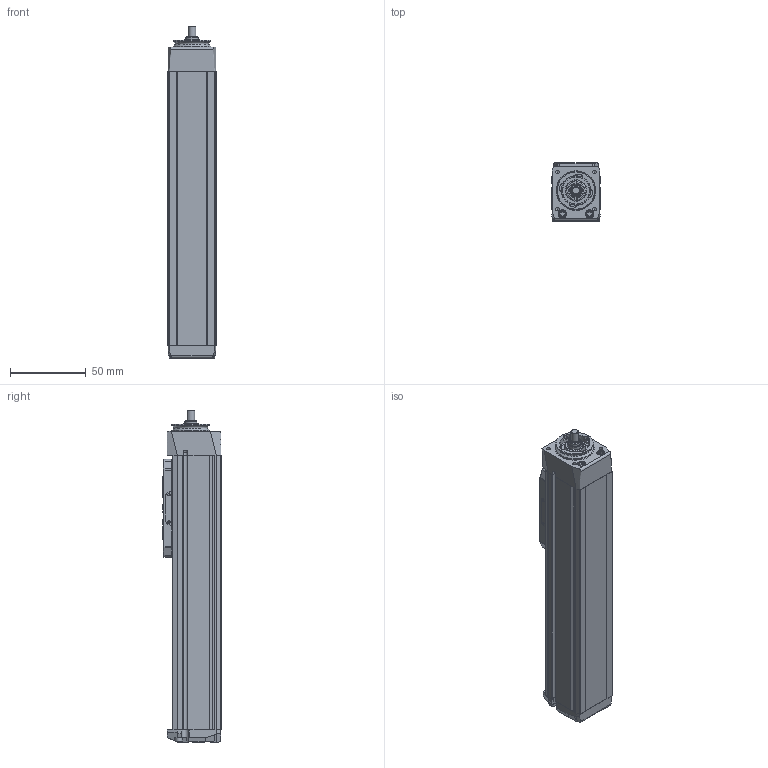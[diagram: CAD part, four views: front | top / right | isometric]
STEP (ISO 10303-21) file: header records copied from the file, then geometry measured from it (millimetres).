
FILE_DESCRIPTION(/* description */ ('STEP AP214'),/* implementation_level */ '2;1');
FILE_NAME(/* name */ 'MGBS 32 0802 100(0)',/* time_stamp */ '2023-04-12T10:39:19+02:00',/* author */ ('License CC BY-ND 4.0'),/* organization */ ('CADENAS'),/* preprocessor_version */ 'ST-DEVELOPER v19.3',/* originating_system */ 'PARTsolutions',/* authorisation */ ' ');
FILE_SCHEMA (('AUTOMOTIVE_DESIGN {1 0 10303 214 3 1 1}'));
Length unit declared in the file: millimetre
Products named in the file (6): MGBS 32 0802 100(0); MGBS 32 100_protection_strip; MGBS 32_carriage; MGBS 32_end_block; MGBS 32 100_profile; MGBS 32_drive_block
Assembly tree (5 placements, depth 2):
  MGBS 32 0802 100(0)
    MGBS 32 100_protection_strip
    MGBS 32_carriage
    MGBS 32_end_block
    MGBS 32 100_profile
    MGBS 32_drive_block
Bounding box: 32 x 38.5 x 219.5 mm (x, y, z)
Volume: 206929 mm3; surface area: 57159.2 mm2
Topology: 5 solids, 5 shells, 638 faces, 1686 edges, 1092 vertices
Faces by surface type: plane 301, cylinder 160, cone 94, bspline 56, torus 25, sphere 2
Full cylindrical faces by diameter (mm): 0.3 x1, 1.567 x4, 1.755 x4, 1.8 x2, 2 x2, 2.3 x4, 2.459 x8, 2.46 x4, 2.5 x11, 3 x1, 3.8 x4, 4.5 x6, 5 x5, 7.5 x1, 8 x1, 10 x1, 13.84 x1, 14.2 x1, 17.8 x1, 18.16 x1, 19.5 x1, 25 x2, 25.7 x1
Entity records: 23436 total; most frequent: CARTESIAN_POINT 4050, DIRECTION 3216, ORIENTED_EDGE 2990, EDGE_CURVE 1495, AXIS2_PLACEMENT_3D 1173, VERTEX_POINT 1077, LINE 870, VECTOR 870
